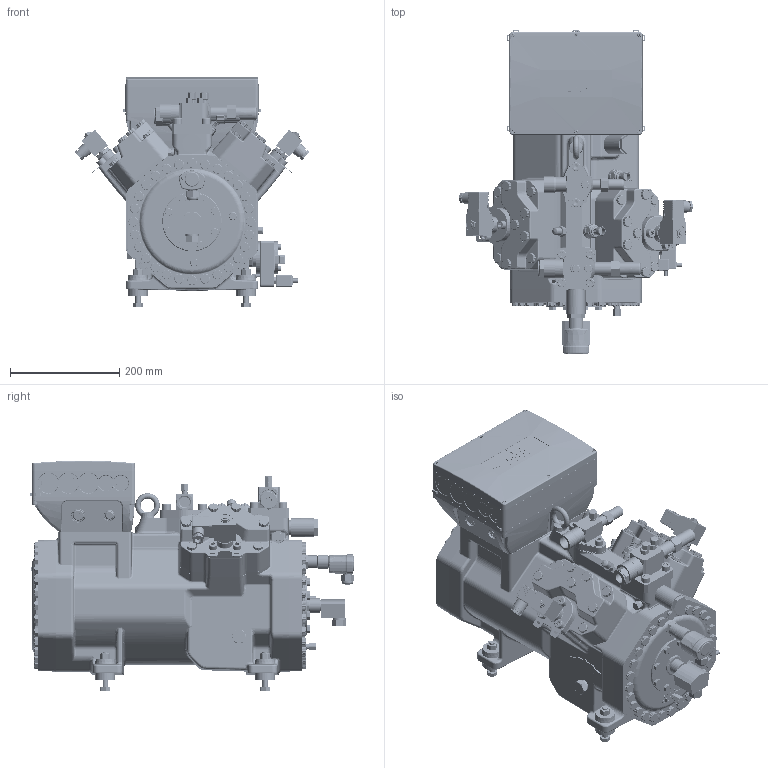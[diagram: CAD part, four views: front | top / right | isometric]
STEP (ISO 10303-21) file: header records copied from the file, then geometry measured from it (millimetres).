
FILE_DESCRIPTION(/* description */ (''),/* implementation_level */ '2;1');
FILE_NAME(/* name */ '4PTE-4MTE-4KTE_Arrangement 1.stp',/* time_stamp */ '2025-05-07T05:25:47+02:00',/* author */ (''),/* organization */ (''),/* preprocessor_version */ 'ST-DEVELOPER v20',/* originating_system */ 'SIEMENS PLM Software NX2406.8100',/* authorisation */ '');
FILE_SCHEMA (('AUTOMOTIVE_DESIGN { 1 0 10303 214 3 1 1 1 }'));
Products named in the file (42): SHUT-OFF-VALVE-DI28-DA35-DN25; SHUT-OFF-VALVE-DI19-DA25-DN16; SHUT-OFF-VALVE-DI22-DA30-DN20; SHUT-OFF-VALVE-DI25-DA30-DN20; SHUT-OFF-VALVE-DI22-DA30; SHUT-OFF-VALVE-DI16-DA22-DN15; SHUT-OFF-VALVE-DI16-DA22; SHUT-OFF-VALVE-DI18-KLEMM-DN16; SHUT-OFF-VALVE-DI16-DA22-DN15-01; SHUT-OFF-VALVE-DI19-DA25-DN16-01; SEALING-SCREW-1-2-20-UNF; SEALING-SCREW-3-8-24-UNF; PT1000; PRESSURE-TRANSDUCER-5PP6-40-HP; PRESSURE-TRANSDUCER-5PP6-39-ND; CYLINDER-HEAD-CKH3E-CR2-01; CABLE-PLUG-01; COIL-230V-01; OIL-PRESS-CUT-OUT-DELTAP-2; BEARING-COVER-OIL-PUMP-CKHE3; BEAROMG-COVER-OLC-K1-SG; BEARING-COVER-SIGHT-GLAS-CKHE3; PROTECTIVE-CAP-F-PRESS-SAF; OIL-LEVEL-MONITORING-OLM-IQ-2; ELECTRICAL-TERMINAL-BOX-C3; TERMINAL-BOX-CE3-CM-RC-02; HOUSING-COVER-CKHE2-CKHE3; CRANKCASE-HEATER-200-260V-120W; CYLINDER-HEAD-CKH2-CKH3-01; BLIND-FLANGE-OVAL; BLIND-FLANGE-HP-CO2; DAMPERELEMENT-COMPL-KIT-CKH3-03; BEARING-COVER-CKHE3; BODY-CKHE3; 4MTE-4KTE-MARINE; SHUT-OFF-VALVE-4PTE-4MTE-4KTE; SEAL-SCREW-3-4-24UNF-1-2-20UNF; PROTECT-DEVICE-IQ-MODULE-CPL; CYLINDER-HEADS-CR2-CKHE3; 4PTE-4MTE-4KTE-OPTION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
Assembly tree (48 placements, depth 4):
  4PTE-4MTE-4KTE
    4PTE-4MTE-4KTE-STANDARD
      BODY-CKHE3
      BEARING-COVER-CKHE3
      DAMPERELEMENT-COMPL-KIT-CKH3-03  x4
      BLIND-FLANGE-HP-CO2
      BLIND-FLANGE-OVAL
      CYLINDER-HEAD-CKH2-CKH3-01  x2
      CRANKCASE-HEATER-200-260V-120W
      HOUSING-COVER-CKHE2-CKHE3
      TERMINAL-BOX-CE3-CM-RC-02
      ELECTRICAL-TERMINAL-BOX-C3
    4PTE-4MTE-4KTE-OPTION
      CYLINDER-HEADS-CR2-CKHE3
        COIL-230V-01  x2
        CABLE-PLUG-01  x2
        CYLINDER-HEAD-CKH3E-CR2-01  x2
      PROTECT-DEVICE-IQ-MODULE-CPL
        PRESSURE-TRANSDUCER-5PP6-39-ND
        PRESSURE-TRANSDUCER-5PP6-40-HP
        PT1000
      OIL-LEVEL-MONITORING-OLM-IQ-2
      SEAL-SCREW-3-4-24UNF-1-2-20UNF
        SEALING-SCREW-3-8-24-UNF
        SEALING-SCREW-1-2-20-UNF
      PROTECTIVE-CAP-F-PRESS-SAF
      SHUT-OFF-VALVE-4PTE-4MTE-4KTE
        SHUT-OFF-VALVE-DI19-DA25-DN16-01
        SHUT-OFF-VALVE-DI16-DA22-DN15-01
        SHUT-OFF-VALVE-DI18-KLEMM-DN16
        SHUT-OFF-VALVE-DI16-DA22
        SHUT-OFF-VALVE-DI16-DA22-DN15
        SHUT-OFF-VALVE-DI22-DA30
        SHUT-OFF-VALVE-DI25-DA30-DN20
        SHUT-OFF-VALVE-DI22-DA30-DN20
        SHUT-OFF-VALVE-DI19-DA25-DN16
        SHUT-OFF-VALVE-DI28-DA35-DN25
      BEARING-COVER-SIGHT-GLAS-CKHE3
      BEAROMG-COVER-OLC-K1-SG
    4MTE-4KTE-MARINE
      BEARING-COVER-OIL-PUMP-CKHE3
      OIL-PRESS-CUT-OUT-DELTAP-2
Bounding box: 430.73 x 594.93 x 422.39 mm (x, y, z)
Volume: 42485544.2 mm3; surface area: 2416231.6 mm2
Topology: 46 solids, 60 shells, 15418 faces, 37684 edges, 23124 vertices
Faces by surface type: plane 5368, bspline 3434, cylinder 3414, cone 1876, torus 666, extrusion 373, sphere 281, revolution 6
Full cylindrical faces by diameter (mm): 2 x3, 3 x4, 4 x11, 5 x7, 5.795 x4, 6 x6, 6.5 x3, 6.6 x2, 7 x3, 8 x5, 8.5 x12, 8.6 x2, 9 x15, 9.2 x3, 9.342 x1, 9.5 x2, 9.8 x1, 9.921 x2, 10 x19, 10.1 x2, 10.287 x1, 10.29 x1, 10.5 x2, 10.6 x4, 10.72 x12, 10.8 x3, 10.835 x1, 11 x31, 11.4 x1, 11.5 x1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
Entity records: 449431 total; most frequent: CARTESIAN_POINT 176405, ORIENTED_EDGE 58648, DIRECTION 47333, EDGE_CURVE 29324, VERTEX_POINT 18960, AXIS2_PLACEMENT_3D 18339, EDGE_LOOP 15033, ADVANCED_FACE 12754
